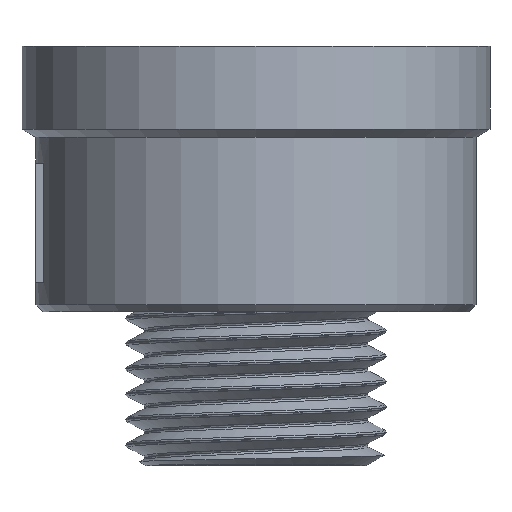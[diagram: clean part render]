
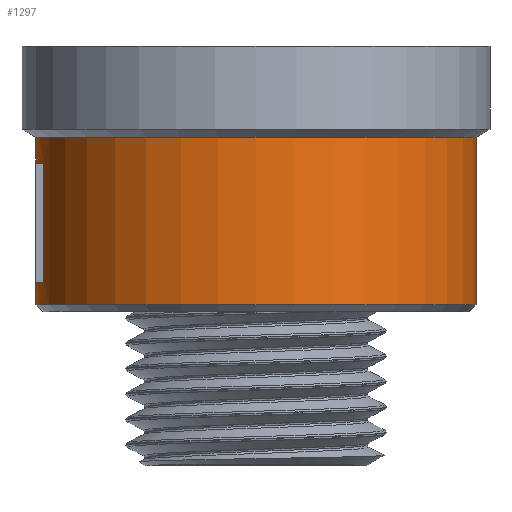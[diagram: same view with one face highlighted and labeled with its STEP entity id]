
A CAD part, front view. The second image highlights one B-rep face of the part: STEP entity #1297.
In plain terms, the highlighted cylindrical face has radius 15.75 mm (diameter 31.5 mm), a full revolution.
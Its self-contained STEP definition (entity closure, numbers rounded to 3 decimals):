
#34=FACE_BOUND('',#280,.T.);
#151=CYLINDRICAL_SURFACE('',#1399,15.75);
#203=FACE_OUTER_BOUND('',#279,.T.);
#279=EDGE_LOOP('',(#1014,#1015,#1016,#1017,#1018,#1019));
#280=EDGE_LOOP('',(#1020,#1021,#1022,#1023));
#336=LINE('',#1760,#419);
#391=LINE('',#1947,#474);
#393=LINE('',#1965,#476);
#419=VECTOR('',#1481,10.);
#474=VECTOR('',#1576,10.);
#476=VECTOR('',#1598,15.75);
#504=CIRCLE('',#1381,15.75);
#505=CIRCLE('',#1383,15.75);
#506=CIRCLE('',#1395,15.75);
#507=CIRCLE('',#1396,15.75);
#510=CIRCLE('',#1400,15.75);
#511=CIRCLE('',#1401,15.75);
#544=VERTEX_POINT('',#1758);
#545=VERTEX_POINT('',#1759);
#579=VERTEX_POINT('',#1887);
#580=VERTEX_POINT('',#1891);
#588=VERTEX_POINT('',#1951);
#589=VERTEX_POINT('',#1952);
#592=VERTEX_POINT('',#1961);
#593=VERTEX_POINT('',#1962);
#680=EDGE_CURVE('',#544,#545,#336,.T.);
#725=EDGE_CURVE('',#579,#544,#504,.T.);
#727=EDGE_CURVE('',#545,#580,#505,.T.);
#745=EDGE_CURVE('',#580,#579,#391,.T.);
#746=EDGE_CURVE('',#588,#589,#506,.T.);
#747=EDGE_CURVE('',#589,#588,#507,.T.);
#751=EDGE_CURVE('',#592,#593,#510,.T.);
#752=EDGE_CURVE('',#593,#592,#511,.T.);
#753=EDGE_CURVE('',#593,#589,#393,.T.);
#1014=ORIENTED_EDGE('',*,*,#751,.F.);
#1015=ORIENTED_EDGE('',*,*,#752,.F.);
#1016=ORIENTED_EDGE('',*,*,#753,.T.);
#1017=ORIENTED_EDGE('',*,*,#747,.T.);
#1018=ORIENTED_EDGE('',*,*,#746,.T.);
#1019=ORIENTED_EDGE('',*,*,#753,.F.);
#1020=ORIENTED_EDGE('',*,*,#727,.T.);
#1021=ORIENTED_EDGE('',*,*,#745,.T.);
#1022=ORIENTED_EDGE('',*,*,#725,.T.);
#1023=ORIENTED_EDGE('',*,*,#680,.T.);
#1297=ADVANCED_FACE('',(#203,#34),#151,.T.);
#1381=AXIS2_PLACEMENT_3D('',#1888,#1538,#1539);
#1383=AXIS2_PLACEMENT_3D('',#1892,#1543,#1544);
#1395=AXIS2_PLACEMENT_3D('',#1953,#1583,#1584);
#1396=AXIS2_PLACEMENT_3D('',#1954,#1585,#1586);
#1399=AXIS2_PLACEMENT_3D('',#1960,#1592,#1593);
#1400=AXIS2_PLACEMENT_3D('',#1963,#1594,#1595);
#1401=AXIS2_PLACEMENT_3D('',#1964,#1596,#1597);
#1481=DIRECTION('',(0.,0.,1.));
#1538=DIRECTION('center_axis',(0.,0.,-1.));
#1539=DIRECTION('ref_axis',(0.,-1.,0.));
#1543=DIRECTION('center_axis',(0.,0.,1.));
#1544=DIRECTION('ref_axis',(0.,-1.,0.));
#1576=DIRECTION('',(0.,0.,-1.));
#1583=DIRECTION('center_axis',(0.,0.,1.));
#1584=DIRECTION('ref_axis',(1.,0.,0.));
#1585=DIRECTION('center_axis',(0.,0.,1.));
#1586=DIRECTION('ref_axis',(1.,0.,0.));
#1592=DIRECTION('center_axis',(0.,0.,1.));
#1593=DIRECTION('ref_axis',(0.,-1.,0.));
#1594=DIRECTION('center_axis',(0.,0.,1.));
#1595=DIRECTION('ref_axis',(1.,0.,0.));
#1596=DIRECTION('center_axis',(0.,0.,1.));
#1597=DIRECTION('ref_axis',(1.,0.,0.));
#1598=DIRECTION('',(0.,0.,-1.));
#1758=CARTESIAN_POINT('',(-15.139,4.345,13.08));
#1759=CARTESIAN_POINT('',(-15.139,4.345,21.649));
#1760=CARTESIAN_POINT('',(-15.139,4.345,17.5));
#1887=CARTESIAN_POINT('',(-15.192,-4.155,13.08));
#1888=CARTESIAN_POINT('Origin',(0.,0.,13.08));
#1891=CARTESIAN_POINT('',(-15.192,-4.155,21.649));
#1892=CARTESIAN_POINT('Origin',(0.,0.,21.649));
#1947=CARTESIAN_POINT('',(-15.192,-4.155,17.5));
#1951=CARTESIAN_POINT('',(0.,-15.75,11.5));
#1952=CARTESIAN_POINT('',(0.,15.75,11.5));
#1953=CARTESIAN_POINT('Origin',(0.,0.,11.5));
#1954=CARTESIAN_POINT('Origin',(0.,0.,11.5));
#1960=CARTESIAN_POINT('Origin',(0.,0.,17.5));
#1961=CARTESIAN_POINT('',(0.,-15.75,23.5));
#1962=CARTESIAN_POINT('',(0.,15.75,23.5));
#1963=CARTESIAN_POINT('Origin',(0.,0.,23.5));
#1964=CARTESIAN_POINT('Origin',(0.,0.,23.5));
#1965=CARTESIAN_POINT('',(0.,15.75,17.5));
